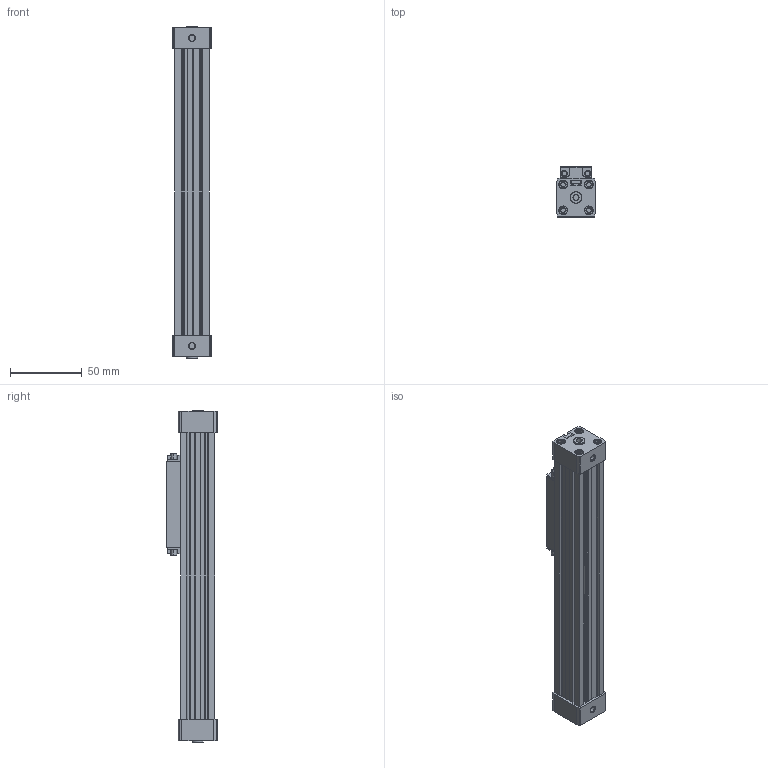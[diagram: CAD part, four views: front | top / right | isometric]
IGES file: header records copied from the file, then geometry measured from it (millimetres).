
Start section: SolidWorks IGES file using analytic representation for surfaces
Global section: file name: c:\CATALO3D\IGS\RLF16.0100.IGS; native system: SolidWorks 2005 by SolidWorks Corporation; preprocessor: SolidWorks 2005 by SolidWorks Corporation; author: tania; date: 051219.172714; units: millimetre
Bounding box: 27 x 35 x 232 mm (x, y, z)
Surface area: 59492.9 mm2 (no closed solid volume)
Topology: 0 solids, 0 shells, 988 faces, 17194 edges, 21786 vertices
Faces by surface type: revolution 527, bspline 461
